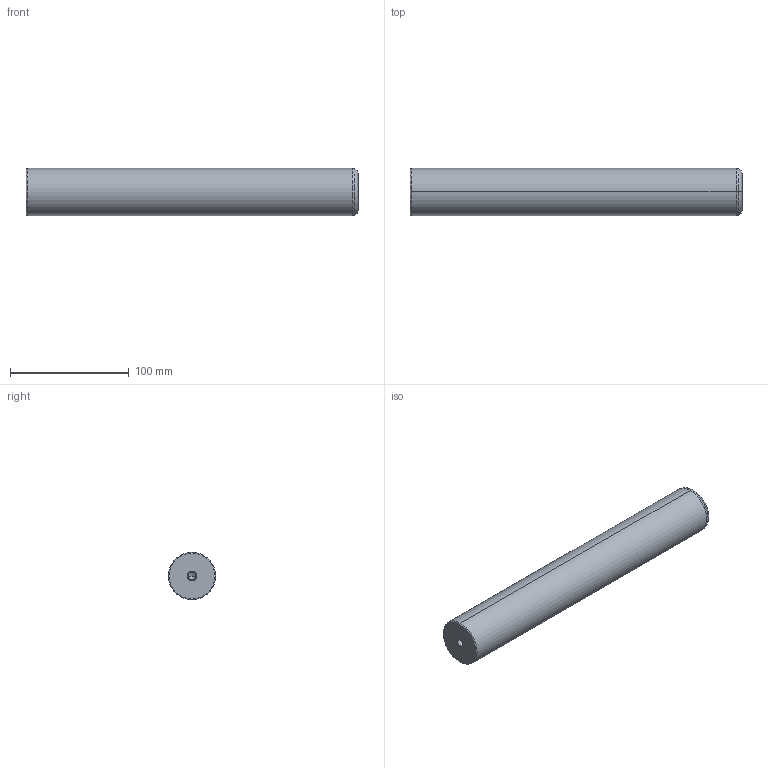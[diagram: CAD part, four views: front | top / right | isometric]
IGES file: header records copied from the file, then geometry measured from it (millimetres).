
Start section: START RECORD GO HERE.
Global section: file name: 720-40x280.igs; native system: DASSAULT SYSTEMES CATIA V5 R20 - www.3ds.com; preprocessor: CATIA Version 5 Release 20 ; author: Utente; organization: NB04-ASUS; date: 20201230.225800; units: millimetre
Bounding box: 280 x 40 x 40 mm (x, y, z)
Surface area: 38370 mm2 (no closed solid volume)
Topology: 0 solids, 0 shells, 22 faces, 108 edges, 104 vertices
Faces by surface type: revolution 20, plane 2
